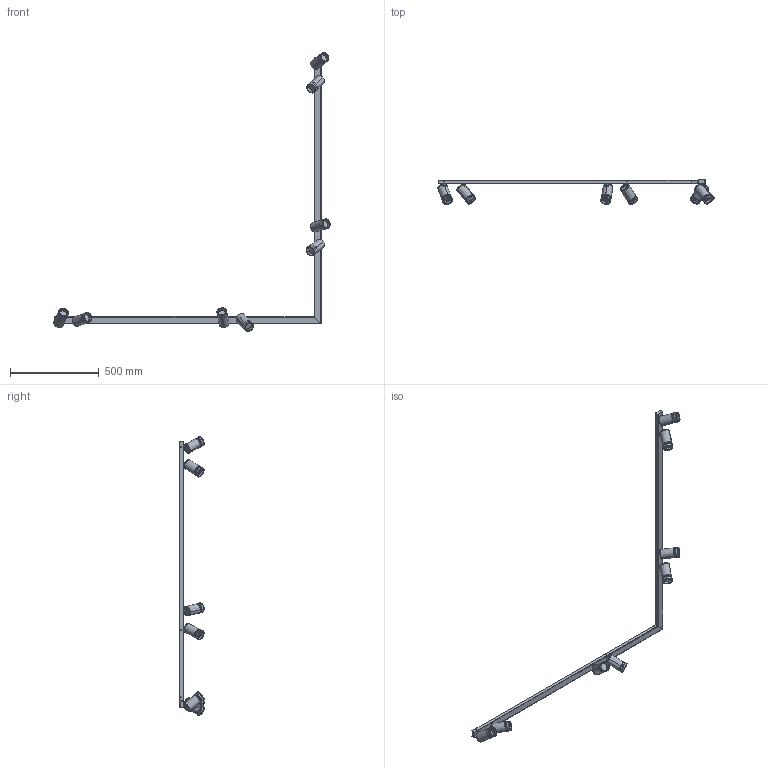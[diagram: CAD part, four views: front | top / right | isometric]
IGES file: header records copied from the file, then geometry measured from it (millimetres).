
Start section: SolidWorks IGES file using analytic representation for surfaces
Global section: file name: Z:\Modele 3D_WWW\_KOLEKCJE_WWW\MONO\MONO-CORNER\MONO-CORNER-VIII-2X150-GOLD-7695-7700\MONO-CORNER-VIII-2X150-GOLD-7695-7700.IGS; native system: SolidWorks 2021; preprocessor: SolidWorks 2021; author: gabriela.tworek; date: 210819.134811; units: millimetre
Bounding box: 1554.92 x 135.98 x 1568.01 mm (x, y, z)
Surface area: 934746.6 mm2 (no closed solid volume)
Topology: 0 solids, 0 shells, 1588 faces, 27692 edges, 27684 vertices
Faces by surface type: revolution 884, bspline 704
